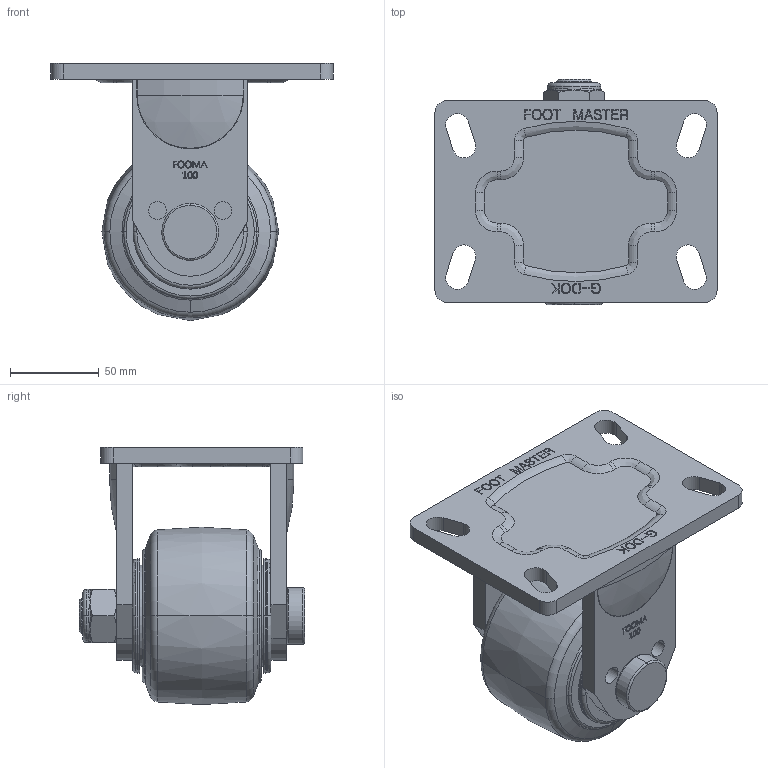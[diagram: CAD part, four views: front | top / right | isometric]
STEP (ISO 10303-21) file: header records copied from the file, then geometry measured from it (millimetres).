
FILE_DESCRIPTION((''),'2;1');
FILE_NAME('GF-100A-RF-MUD.stp','2012-06-06T16:23:50',(''),(''),'Mechanical Desktop 2009','Mechanical Desktop 2009',', , ');
FILE_SCHEMA(('CONFIG_CONTROL_DESIGN'));
Length unit declared in the file: millimetre
Products named in the file (2): GF-100A-RF-MUD; GF-RF-PLATE
Assembly tree (1 placements, depth 2):
  GF-100A-RF-MUD
    GF-RF-PLATE
Bounding box: 159 x 127 x 145 mm (x, y, z)
Volume: 803114.5 mm3; surface area: 115910.9 mm2
Topology: 1 solids, 3 shells, 915 faces, 2471 edges, 1602 vertices
Faces by surface type: bspline 444, plane 297, cylinder 96, torus 42, cone 32, sphere 4
Entity records: 32490 total; most frequent: CARTESIAN_POINT 12024, ORIENTED_EDGE 4910, DIRECTION 3073, EDGE_CURVE 2455, VERTEX_POINT 1602, VECTOR 1151, LINE 1151, EDGE_LOOP 1001
